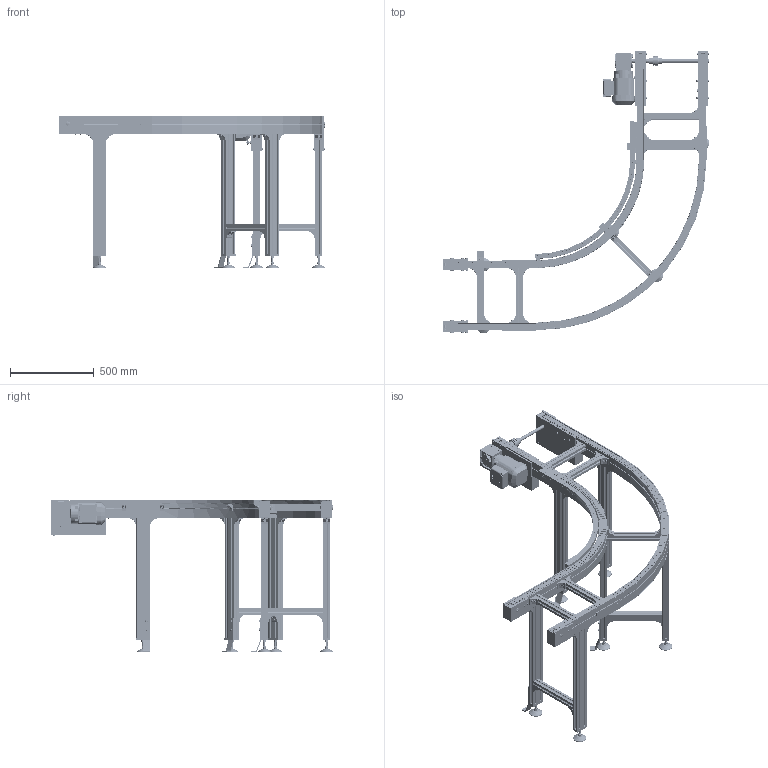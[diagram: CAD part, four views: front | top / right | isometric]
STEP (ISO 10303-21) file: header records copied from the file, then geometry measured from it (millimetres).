
FILE_DESCRIPTION(/* description */ (''),/* implementation_level */ '2;1');
FILE_NAME(/* name */ 'C:\Marketing\01_Versamove-SPU_STEP-Dateien-Homepage\VersamoveStandard\B400\STEP-Dateien\Flachplattenförderer_FPF-P-2045_Kurve90-links_B400.stp',/* time_stamp */ '2016-12-20T14:09:40+01:00',/* author */ ('herbert.engels'),/* organization */ (''),/* preprocessor_version */ 'ST-DEVELOPER v15.6',/* originating_system */ 'Autodesk Inventor 2015',/* authorisation */ '');
FILE_SCHEMA (('CONFIG_CONTROL_DESIGN'));
Length unit declared in the file: millimetre
Products named in the file (1): Flachplattenförderer_FPF-P-2045_Kurve90-links_B40
0
Bounding box: 1587.87 x 1682.37 x 905.3 mm (x, y, z)
Volume: 33704716.4 mm3; surface area: 8320382.1 mm2
Topology: 52 solids, 52 shells, 8741 faces, 24216 edges, 15495 vertices
Faces by surface type: plane 5651, cylinder 2193, cone 516, torus 297, sphere 68, bspline 16
Full cylindrical faces by diameter (mm): 2 x8, 6 x14, 6.647 x8, 7.323 x4, 8 x114, 8.7 x4, 9 x28, 10 x8, 10.066 x1, 11 x4, 11.4 x22, 12 x12, 13 x108, 13.6 x8, 14 x72, 15 x12, 16 x16, 18 x4, 19 x4, 19.77 x4, 20 x17, 25 x1, 25.05 x4, 28 x1, 30 x2, 40 x2, 53 x1, 54 x2, 56 x3, 79 x6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
Entity records: 286670 total; most frequent: CARTESIAN_POINT 55594, ORIENTED_EDGE 46310, DIRECTION 45252, EDGE_CURVE 23124, LINE 15888, VECTOR 15888, VERTEX_POINT 15181, AXIS2_PLACEMENT_3D 14682
